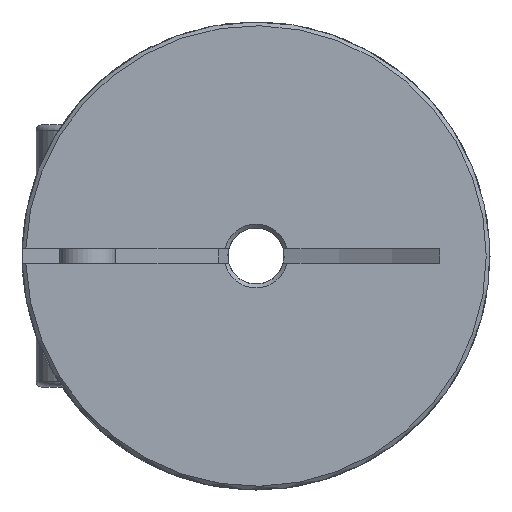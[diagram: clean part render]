
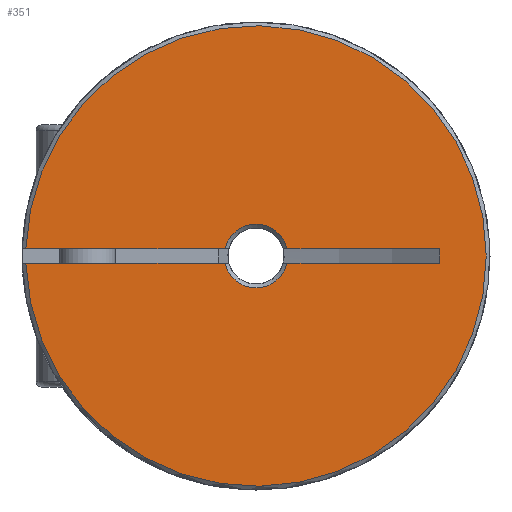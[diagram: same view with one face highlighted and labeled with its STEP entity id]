
A CAD part, left-side view. The second image highlights one B-rep face of the part: STEP entity #351.
In plain terms, the highlighted planar face has unit normal (-1, 0, 0) as drawn and (0, 0, 1) by its records, which use the part's own axes.
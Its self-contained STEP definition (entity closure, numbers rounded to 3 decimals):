
#351 = ADVANCED_FACE( 'NONE', ( #815 ), #816, .T. );
#815 = FACE_OUTER_BOUND( '', #1554, .T. );
#816 = PLANE( '', #1555 );
#1554 = EDGE_LOOP( '', ( #2330, #2331, #2332, #2333, #2334, #2335, #2336, #2337 ) );
#1555 = AXIS2_PLACEMENT_3D( '', #2338, #2339, #2340 );
#2330 = ORIENTED_EDGE( '', *, *, #3839, .F. );
#2331 = ORIENTED_EDGE( '', *, *, #3840, .T. );
#2332 = ORIENTED_EDGE( '', *, *, #3841, .F. );
#2333 = ORIENTED_EDGE( '', *, *, #3842, .T. );
#2334 = ORIENTED_EDGE( '', *, *, #3843, .T. );
#2335 = ORIENTED_EDGE( '', *, *, #3844, .T. );
#2336 = ORIENTED_EDGE( '', *, *, #3845, .T. );
#2337 = ORIENTED_EDGE( '', *, *, #3834, .F. );
#2338 = CARTESIAN_POINT( '', ( 0., 0., 11.25 ) );
#2339 = DIRECTION( '', ( 0., 0., 1. ) );
#2340 = DIRECTION( '', ( 1., 0., 0. ) );
#3834 = EDGE_CURVE( 'NONE', #4453, #4454, #4455, .F. );
#3839 = EDGE_CURVE( 'NONE', #4462, #4453, #4463, .F. );
#3840 = EDGE_CURVE( 'NONE', #4462, #4464, #4465, .F. );
#3841 = EDGE_CURVE( 'NONE', #4466, #4464, #4467, .T. );
#3842 = EDGE_CURVE( 'NONE', #4466, #4468, #4469, .T. );
#3843 = EDGE_CURVE( 'NONE', #4468, #4470, #4471, .T. );
#3844 = EDGE_CURVE( 'NONE', #4470, #4472, #4473, .F. );
#3845 = EDGE_CURVE( 'NONE', #4472, #4454, #4474, .T. );
#4453 = VERTEX_POINT( 'NONE', #5314 );
#4454 = VERTEX_POINT( 'NONE', #5315 );
#4455 = LINE( '', #5316, #5317 );
#4462 = VERTEX_POINT( 'NONE', #5327 );
#4463 = LINE( '', #5328, #5329 );
#4464 = VERTEX_POINT( 'NONE', #5330 );
#4465 = CIRCLE( '', #5331, 1.7 );
#4466 = VERTEX_POINT( 'NONE', #5332 );
#4467 = LINE( '', #5333, #5334 );
#4468 = VERTEX_POINT( 'NONE', #5335 );
#4469 = CIRCLE( '', #5336, 12.3 );
#4470 = VERTEX_POINT( 'NONE', #5337 );
#4471 = LINE( '', #5338, #5339 );
#4472 = VERTEX_POINT( 'NONE', #5340 );
#4473 = CIRCLE( '', #5341, 1.7 );
#4474 = LINE( '', #5342, #5343 );
#5314 = CARTESIAN_POINT( '', ( -9.815, 0.4, 11.25 ) );
#5315 = CARTESIAN_POINT( '', ( -9.815, -0.4, 11.25 ) );
#5316 = CARTESIAN_POINT( '', ( -9.815, -0.4, 11.25 ) );
#5317 = VECTOR( '', #6494, 1000. );
#5327 = CARTESIAN_POINT( '', ( -1.652, 0.4, 11.25 ) );
#5328 = CARTESIAN_POINT( '', ( 7., 0.4, 11.25 ) );
#5329 = VECTOR( '', #6501, 1000. );
#5330 = CARTESIAN_POINT( '', ( 1.652, 0.4, 11.25 ) );
#5331 = AXIS2_PLACEMENT_3D( '', #6502, #6503, #6504 );
#5332 = CARTESIAN_POINT( '', ( 12.293, 0.4, 11.25 ) );
#5333 = CARTESIAN_POINT( '', ( 0., 0.4, 11.25 ) );
#5334 = VECTOR( '', #6505, 1000. );
#5335 = CARTESIAN_POINT( '', ( 12.293, -0.4, 11.25 ) );
#5336 = AXIS2_PLACEMENT_3D( '', #6506, #6507, #6508 );
#5337 = CARTESIAN_POINT( '', ( 1.652, -0.4, 11.25 ) );
#5338 = CARTESIAN_POINT( '', ( 0., -0.4, 11.25 ) );
#5339 = VECTOR( '', #6509, 1000. );
#5340 = CARTESIAN_POINT( '', ( -1.652, -0.4, 11.25 ) );
#5341 = AXIS2_PLACEMENT_3D( '', #6510, #6511, #6512 );
#5342 = CARTESIAN_POINT( '', ( 0., -0.4, 11.25 ) );
#5343 = VECTOR( '', #6513, 1000. );
#6494 = DIRECTION( '', ( 0., 1., 0. ) );
#6501 = DIRECTION( '', ( 1., 0., 0. ) );
#6502 = CARTESIAN_POINT( '', ( 0., 0., 11.25 ) );
#6503 = DIRECTION( '', ( 0., 0., 1. ) );
#6504 = DIRECTION( '', ( 1., 0., 0. ) );
#6505 = DIRECTION( '', ( -1., 0., 0. ) );
#6506 = CARTESIAN_POINT( '', ( 0., 0., 11.25 ) );
#6507 = DIRECTION( '', ( 0., 0., 1. ) );
#6508 = DIRECTION( '', ( 1., 0., 0. ) );
#6509 = DIRECTION( '', ( -1., 0., 0. ) );
#6510 = CARTESIAN_POINT( '', ( 0., 0., 11.25 ) );
#6511 = DIRECTION( '', ( 0., 0., 1. ) );
#6512 = DIRECTION( '', ( 1., 0., 0. ) );
#6513 = DIRECTION( '', ( -1., 0., 0. ) );
